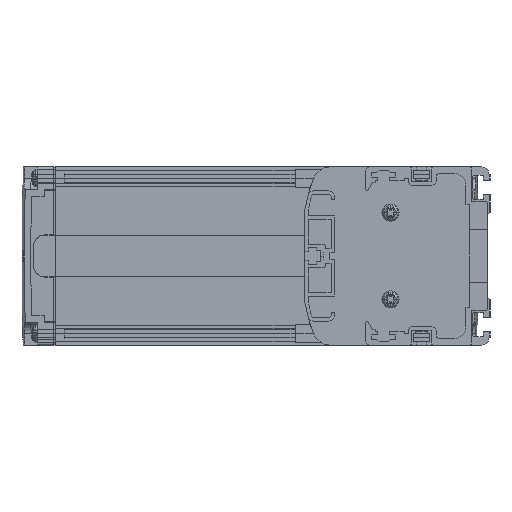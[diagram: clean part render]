
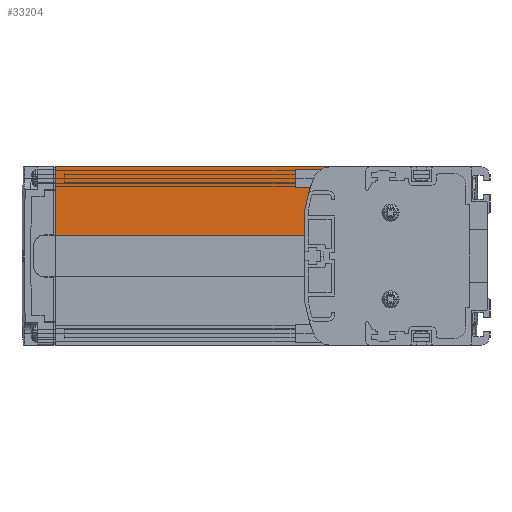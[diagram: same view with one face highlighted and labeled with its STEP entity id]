
A CAD part, left-side view. The second image highlights one B-rep face of the part: STEP entity #33204.
In plain terms, the highlighted planar face has unit normal (-1, 0, 0).
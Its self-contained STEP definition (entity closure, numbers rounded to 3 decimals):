
#5641=CARTESIAN_POINT('',(3.,79.,19.823));
#5642=DIRECTION('',(1.,0.,0.));
#5643=DIRECTION('',(0.,1.,0.));
#5644=AXIS2_PLACEMENT_3D('',#5641,#5642,#5643);
#5662=DIRECTION('',(0.,0.,-1.));
#5663=VECTOR('',#5662,10.723);
#5664=CARTESIAN_POINT('',(3.,81.,19.823));
#5665=LINE('',#5664,#5663);
#6046=CARTESIAN_POINT('',(3.,2.235,6.));
#6047=DIRECTION('',(1.,0.,0.));
#6048=DIRECTION('',(0.,0.984,0.177));
#6049=AXIS2_PLACEMENT_3D('',#6046,#6047,#6048);
#6059=DIRECTION('',(0.,0.,-1.));
#6060=VECTOR('',#6059,29.9);
#6061=CARTESIAN_POINT('',(3.,190.,39.));
#6062=LINE('',#6061,#6060);
#8129=DIRECTION('',(0.,-1.,0.));
#8130=VECTOR('',#8129,109.);
#8131=CARTESIAN_POINT('',(3.,190.,9.1));
#8132=LINE('',#8131,#8130);
#10921=DIRECTION('',(0.,-1.,0.));
#10922=VECTOR('',#10921,120.245);
#10923=CARTESIAN_POINT('',(3.,190.,39.));
#10924=LINE('',#10923,#10922);
#11996=CARTESIAN_POINT('',(3.,69.755,31.));
#11997=DIRECTION('',(-1.,0.,0.));
#11998=DIRECTION('',(0.,0.,1.));
#11999=AXIS2_PLACEMENT_3D('',#11996,#11997,#11998);
#19902=CARTESIAN_POINT('',(3.,190.,39.));
#19903=VERTEX_POINT('',#19902);
#19904=CARTESIAN_POINT('',(3.,190.,9.1));
#19905=VERTEX_POINT('',#19904);
#24405=CARTESIAN_POINT('',(3.,81.,9.1));
#24406=VERTEX_POINT('',#24405);
#24447=CARTESIAN_POINT('',(3.,69.755,39.));
#24448=CARTESIAN_POINT('',(3.,77.257,33.778));
#24449=VERTEX_POINT('',#24447);
#24450=VERTEX_POINT('',#24448);
#24451=CARTESIAN_POINT('',(3.,80.968,20.177));
#24452=VERTEX_POINT('',#24451);
#24453=CARTESIAN_POINT('',(3.,81.,19.823));
#24454=VERTEX_POINT('',#24453);
#33186=CARTESIAN_POINT('',(3.,105.,24.05));
#33187=DIRECTION('',(1.,0.,0.));
#33188=DIRECTION('',(0.,0.,1.));
#33189=AXIS2_PLACEMENT_3D('',#33186,#33187,#33188);
#33190=PLANE('',#33189);
#33192=ORIENTED_EDGE('',*,*,#33191,.T.);
#33193=ORIENTED_EDGE('',*,*,#33138,.F.);
#33194=ORIENTED_EDGE('',*,*,#32567,.F.);
#33195=ORIENTED_EDGE('',*,*,#32585,.T.);
#33197=ORIENTED_EDGE('',*,*,#33196,.F.);
#33199=ORIENTED_EDGE('',*,*,#33198,.F.);
#33201=ORIENTED_EDGE('',*,*,#33200,.T.);
#33202=EDGE_LOOP('',(#33192,#33193,#33194,#33195,#33197,#33199,#33201));
#33203=FACE_OUTER_BOUND('',#33202,.F.);
#33204=ADVANCED_FACE('',(#33203),#33190,.F.);
#5645=CIRCLE('',#5644,2.);
#6050=CIRCLE('',#6049,80.);
#12000=CIRCLE('',#11999,8.);
#32567=EDGE_CURVE('',#24454,#24452,#5645,.T.);
#32585=EDGE_CURVE('',#24454,#24406,#5665,.T.);
#33138=EDGE_CURVE('',#24452,#24450,#6050,.T.);
#33191=EDGE_CURVE('',#24449,#24450,#12000,.T.);
#33196=EDGE_CURVE('',#19905,#24406,#8132,.T.);
#33198=EDGE_CURVE('',#19903,#19905,#6062,.T.);
#33200=EDGE_CURVE('',#19903,#24449,#10924,.T.);
